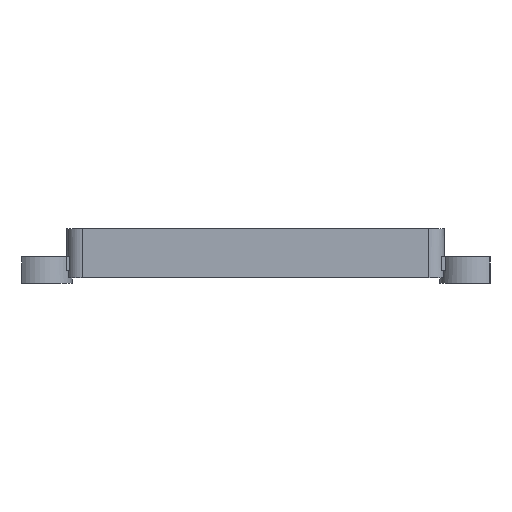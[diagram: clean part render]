
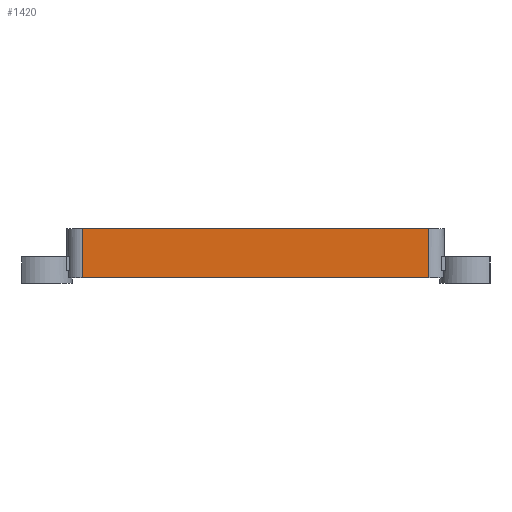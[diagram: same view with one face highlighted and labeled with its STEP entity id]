
A CAD part, left-side view. The second image highlights one B-rep face of the part: STEP entity #1420.
In plain terms, the highlighted planar face has unit normal (-1, 0, 0).
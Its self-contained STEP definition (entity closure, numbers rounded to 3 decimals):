
#175 = PLANE('',#176);
#176 = AXIS2_PLACEMENT_3D('',#177,#178,#179);
#177 = CARTESIAN_POINT('',(41.7,34.5,22.4));
#178 = DIRECTION('',(0.,0.,1.));
#179 = DIRECTION('',(1.,0.,0.));
#307 = CYLINDRICAL_SURFACE('',#308,2.2);
#308 = AXIS2_PLACEMENT_3D('',#309,#310,#311);
#309 = CARTESIAN_POINT('',(11.2,59.25,22.4));
#310 = DIRECTION('',(0.,0.,-1.));
#311 = DIRECTION('',(-1.,0.,0.));
#335 = PLANE('',#336);
#336 = AXIS2_PLACEMENT_3D('',#337,#338,#339);
#337 = CARTESIAN_POINT('',(41.7,34.5,29.45));
#338 = DIRECTION('',(0.,0.,1.));
#339 = DIRECTION('',(1.,0.,0.));
#1335 = VERTEX_POINT('',#1336);
#1336 = CARTESIAN_POINT('',(9.,59.25,22.4));
#1362 = EDGE_CURVE('',#1335,#1363,#1365,.T.);
#1363 = VERTEX_POINT('',#1364);
#1364 = CARTESIAN_POINT('',(9.,59.25,29.45));
#1365 = SURFACE_CURVE('',#1366,(#1370,#1377),.PCURVE_S1.);
#1366 = LINE('',#1367,#1368);
#1367 = CARTESIAN_POINT('',(9.,59.25,22.4));
#1368 = VECTOR('',#1369,1.);
#1369 = DIRECTION('',(0.,0.,1.));
#1370 = PCURVE('',#307,#1371);
#1371 = DEFINITIONAL_REPRESENTATION('',(#1372),#1376);
#1372 = LINE('',#1373,#1374);
#1373 = CARTESIAN_POINT('',(0.,0.));
#1374 = VECTOR('',#1375,1.);
#1375 = DIRECTION('',(0.,-1.));
#1376 = ( GEOMETRIC_REPRESENTATION_CONTEXT(2) 
PARAMETRIC_REPRESENTATION_CONTEXT() REPRESENTATION_CONTEXT('2D SPACE',''
  ) );
#1377 = PCURVE('',#1378,#1383);
#1378 = PLANE('',#1379);
#1379 = AXIS2_PLACEMENT_3D('',#1380,#1381,#1382);
#1380 = CARTESIAN_POINT('',(9.,9.75,22.4));
#1381 = DIRECTION('',(-1.,0.,0.));
#1382 = DIRECTION('',(0.,1.,0.));
#1383 = DEFINITIONAL_REPRESENTATION('',(#1384),#1388);
#1384 = LINE('',#1385,#1386);
#1385 = CARTESIAN_POINT('',(49.5,0.));
#1386 = VECTOR('',#1387,1.);
#1387 = DIRECTION('',(0.,-1.));
#1388 = ( GEOMETRIC_REPRESENTATION_CONTEXT(2) 
PARAMETRIC_REPRESENTATION_CONTEXT() REPRESENTATION_CONTEXT('2D SPACE',''
  ) );
#1420 = ADVANCED_FACE('',(#1421),#1378,.T.);
#1421 = FACE_BOUND('',#1422,.T.);
#1422 = EDGE_LOOP('',(#1423,#1453,#1474,#1475));
#1423 = ORIENTED_EDGE('',*,*,#1424,.T.);
#1424 = EDGE_CURVE('',#1425,#1427,#1429,.T.);
#1425 = VERTEX_POINT('',#1426);
#1426 = CARTESIAN_POINT('',(9.,9.75,22.4));
#1427 = VERTEX_POINT('',#1428);
#1428 = CARTESIAN_POINT('',(9.,9.75,29.45));
#1429 = SURFACE_CURVE('',#1430,(#1434,#1441),.PCURVE_S1.);
#1430 = LINE('',#1431,#1432);
#1431 = CARTESIAN_POINT('',(9.,9.75,22.4));
#1432 = VECTOR('',#1433,1.);
#1433 = DIRECTION('',(0.,0.,1.));
#1434 = PCURVE('',#1378,#1435);
#1435 = DEFINITIONAL_REPRESENTATION('',(#1436),#1440);
#1436 = LINE('',#1437,#1438);
#1437 = CARTESIAN_POINT('',(0.,0.));
#1438 = VECTOR('',#1439,1.);
#1439 = DIRECTION('',(0.,-1.));
#1440 = ( GEOMETRIC_REPRESENTATION_CONTEXT(2) 
PARAMETRIC_REPRESENTATION_CONTEXT() REPRESENTATION_CONTEXT('2D SPACE',''
  ) );
#1441 = PCURVE('',#1442,#1447);
#1442 = CYLINDRICAL_SURFACE('',#1443,2.2);
#1443 = AXIS2_PLACEMENT_3D('',#1444,#1445,#1446);
#1444 = CARTESIAN_POINT('',(11.2,9.75,22.4));
#1445 = DIRECTION('',(0.,0.,-1.));
#1446 = DIRECTION('',(-1.,0.,0.));
#1447 = DEFINITIONAL_REPRESENTATION('',(#1448),#1452);
#1448 = LINE('',#1449,#1450);
#1449 = CARTESIAN_POINT('',(6.283,0.));
#1450 = VECTOR('',#1451,1.);
#1451 = DIRECTION('',(0.,-1.));
#1452 = ( GEOMETRIC_REPRESENTATION_CONTEXT(2) 
PARAMETRIC_REPRESENTATION_CONTEXT() REPRESENTATION_CONTEXT('2D SPACE',''
  ) );
#1453 = ORIENTED_EDGE('',*,*,#1454,.T.);
#1454 = EDGE_CURVE('',#1427,#1363,#1455,.T.);
#1455 = SURFACE_CURVE('',#1456,(#1460,#1467),.PCURVE_S1.);
#1456 = LINE('',#1457,#1458);
#1457 = CARTESIAN_POINT('',(9.,34.5,29.45));
#1458 = VECTOR('',#1459,1.);
#1459 = DIRECTION('',(0.,1.,0.));
#1460 = PCURVE('',#1378,#1461);
#1461 = DEFINITIONAL_REPRESENTATION('',(#1462),#1466);
#1462 = LINE('',#1463,#1464);
#1463 = CARTESIAN_POINT('',(24.75,-7.05));
#1464 = VECTOR('',#1465,1.);
#1465 = DIRECTION('',(1.,0.));
#1466 = ( GEOMETRIC_REPRESENTATION_CONTEXT(2) 
PARAMETRIC_REPRESENTATION_CONTEXT() REPRESENTATION_CONTEXT('2D SPACE',''
  ) );
#1467 = PCURVE('',#335,#1468);
#1468 = DEFINITIONAL_REPRESENTATION('',(#1469),#1473);
#1469 = LINE('',#1470,#1471);
#1470 = CARTESIAN_POINT('',(-32.7,0.));
#1471 = VECTOR('',#1472,1.);
#1472 = DIRECTION('',(0.,1.));
#1473 = ( GEOMETRIC_REPRESENTATION_CONTEXT(2) 
PARAMETRIC_REPRESENTATION_CONTEXT() REPRESENTATION_CONTEXT('2D SPACE',''
  ) );
#1474 = ORIENTED_EDGE('',*,*,#1362,.F.);
#1475 = ORIENTED_EDGE('',*,*,#1476,.F.);
#1476 = EDGE_CURVE('',#1425,#1335,#1477,.T.);
#1477 = SURFACE_CURVE('',#1478,(#1482,#1489),.PCURVE_S1.);
#1478 = LINE('',#1479,#1480);
#1479 = CARTESIAN_POINT('',(9.,34.5,22.4));
#1480 = VECTOR('',#1481,1.);
#1481 = DIRECTION('',(0.,1.,0.));
#1482 = PCURVE('',#1378,#1483);
#1483 = DEFINITIONAL_REPRESENTATION('',(#1484),#1488);
#1484 = LINE('',#1485,#1486);
#1485 = CARTESIAN_POINT('',(24.75,0.));
#1486 = VECTOR('',#1487,1.);
#1487 = DIRECTION('',(1.,0.));
#1488 = ( GEOMETRIC_REPRESENTATION_CONTEXT(2) 
PARAMETRIC_REPRESENTATION_CONTEXT() REPRESENTATION_CONTEXT('2D SPACE',''
  ) );
#1489 = PCURVE('',#175,#1490);
#1490 = DEFINITIONAL_REPRESENTATION('',(#1491),#1495);
#1491 = LINE('',#1492,#1493);
#1492 = CARTESIAN_POINT('',(-32.7,0.));
#1493 = VECTOR('',#1494,1.);
#1494 = DIRECTION('',(0.,1.));
#1495 = ( GEOMETRIC_REPRESENTATION_CONTEXT(2) 
PARAMETRIC_REPRESENTATION_CONTEXT() REPRESENTATION_CONTEXT('2D SPACE',''
  ) );
